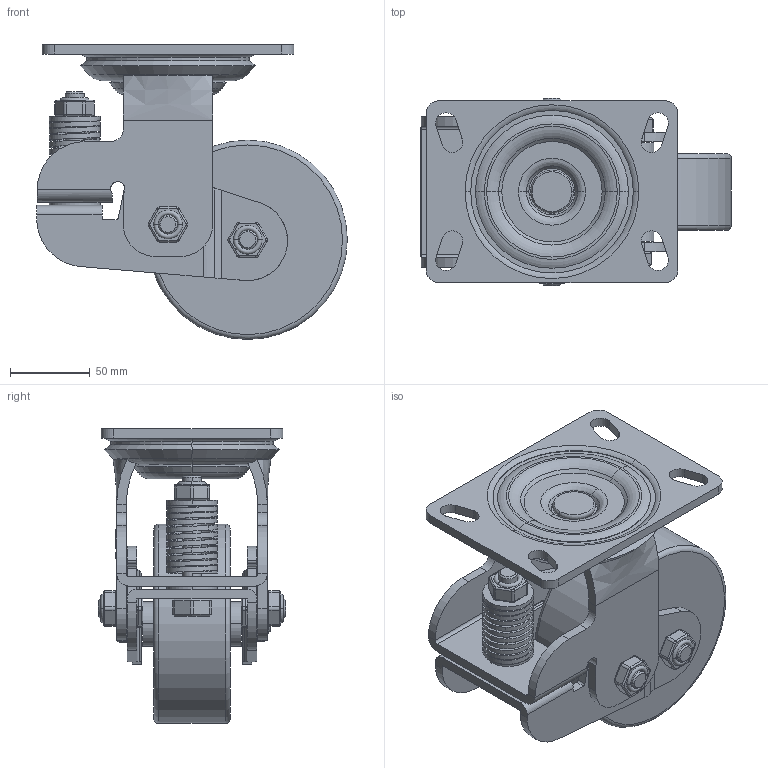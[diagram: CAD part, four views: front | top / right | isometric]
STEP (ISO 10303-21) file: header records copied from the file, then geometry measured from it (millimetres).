
FILE_DESCRIPTION(/* description */ (''),/* implementation_level */ '2;1');
FILE_NAME(/* name */ '45C31_5_F.stp',/* time_stamp */ '2022-10-07T11:02:05+08:00',/* author */ (''),/* organization */ (''),/* preprocessor_version */ 'ST-DEVELOPER v14',/* originating_system */ 'SIEMENS PLM Software NX 8.0',/* authorisation */ '');
FILE_SCHEMA (('AUTOMOTIVE_DESIGN { 1 0 10303 214 3 1 1 1 }'));
Length unit declared in the file: millimetre
Products named in the file (1): 45C31_5_F
Bounding box: 194.85 x 117.38 x 185 mm (x, y, z)
Volume: 1102730.1 mm3; surface area: 196948.1 mm2
Topology: 1 solids, 4 shells, 739 faces, 1869 edges, 1180 vertices
Faces by surface type: plane 324, cylinder 239, torus 62, bspline 58, cone 56
Full cylindrical faces by diameter (mm): 125 x1
Entity records: 27200 total; most frequent: CARTESIAN_POINT 9545, ORIENTED_EDGE 3732, DIRECTION 3667, EDGE_CURVE 1866, AXIS2_PLACEMENT_3D 1409, VERTEX_POINT 1180, LINE 849, VECTOR 849
